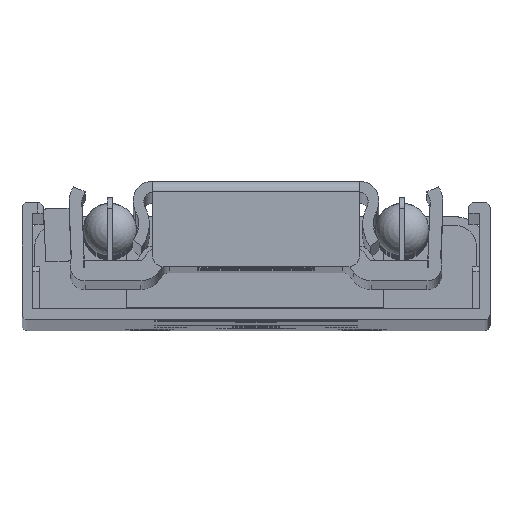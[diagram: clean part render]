
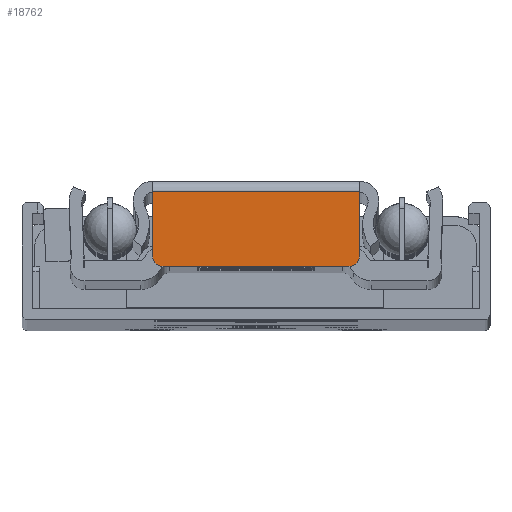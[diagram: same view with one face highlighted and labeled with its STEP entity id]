
A CAD part, top view. The second image highlights one B-rep face of the part: STEP entity #18762.
In plain terms, the highlighted planar face has unit normal (0, 0, 1).
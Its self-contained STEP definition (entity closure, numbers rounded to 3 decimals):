
#870=PLANE('',#20523);
#1786=FACE_OUTER_BOUND('',#2893,.T.);
#2893=EDGE_LOOP('',(#17171,#17172,#17173,#17174,#17175,#17176));
#4747=LINE('',#31562,#6621);
#4748=LINE('',#31565,#6622);
#4749=LINE('',#31569,#6623);
#4750=LINE('',#31572,#6624);
#6621=VECTOR('',#25746,10.);
#6622=VECTOR('',#25749,10.);
#6623=VECTOR('',#25752,10.);
#6624=VECTOR('',#25755,10.);
#7501=CIRCLE('',#20524,1.);
#7502=CIRCLE('',#20525,1.);
#9242=VERTEX_POINT('',#31555);
#9245=VERTEX_POINT('',#31560);
#9246=VERTEX_POINT('',#31564);
#9247=VERTEX_POINT('',#31566);
#9248=VERTEX_POINT('',#31568);
#9249=VERTEX_POINT('',#31570);
#11933=EDGE_CURVE('',#9245,#9242,#4747,.T.);
#11934=EDGE_CURVE('',#9245,#9246,#4748,.T.);
#11935=EDGE_CURVE('',#9247,#9246,#7501,.T.);
#11936=EDGE_CURVE('',#9247,#9248,#4749,.T.);
#11937=EDGE_CURVE('',#9249,#9248,#7502,.T.);
#11938=EDGE_CURVE('',#9242,#9249,#4750,.T.);
#17171=ORIENTED_EDGE('',*,*,#11933,.F.);
#17172=ORIENTED_EDGE('',*,*,#11934,.T.);
#17173=ORIENTED_EDGE('',*,*,#11935,.F.);
#17174=ORIENTED_EDGE('',*,*,#11936,.T.);
#17175=ORIENTED_EDGE('',*,*,#11937,.F.);
#17176=ORIENTED_EDGE('',*,*,#11938,.F.);
#18762=ADVANCED_FACE('',(#1786),#870,.T.);
#20523=AXIS2_PLACEMENT_3D('',#31563,#25747,#25748);
#20524=AXIS2_PLACEMENT_3D('',#31567,#25750,#25751);
#20525=AXIS2_PLACEMENT_3D('',#31571,#25753,#25754);
#25746=DIRECTION('',(-1.,0.,0.));
#25747=DIRECTION('center_axis',(0.,0.,1.));
#25748=DIRECTION('ref_axis',(1.,0.,0.));
#25749=DIRECTION('',(0.,1.,0.));
#25750=DIRECTION('center_axis',(0.,0.,-1.));
#25751=DIRECTION('ref_axis',(0.707,0.707,0.));
#25752=DIRECTION('',(-1.,0.,0.));
#25753=DIRECTION('center_axis',(0.,0.,-1.));
#25754=DIRECTION('ref_axis',(-0.707,0.707,0.));
#25755=DIRECTION('',(0.,1.,0.));
#31555=CARTESIAN_POINT('',(4.892,-4.95,599.));
#31560=CARTESIAN_POINT('',(24.354,-4.95,599.));
#31562=CARTESIAN_POINT('',(19.501,-4.95,599.));
#31563=CARTESIAN_POINT('Origin',(24.354,-5.95,599.));
#31564=CARTESIAN_POINT('',(24.354,1.05,599.));
#31565=CARTESIAN_POINT('',(24.354,-5.95,599.));
#31566=CARTESIAN_POINT('',(23.354,2.05,599.));
#31567=CARTESIAN_POINT('Origin',(23.354,1.05,599.));
#31568=CARTESIAN_POINT('',(5.892,2.05,599.));
#31569=CARTESIAN_POINT('',(24.354,2.05,599.));
#31570=CARTESIAN_POINT('',(4.892,1.05,599.));
#31571=CARTESIAN_POINT('Origin',(5.892,1.05,599.));
#31572=CARTESIAN_POINT('',(4.892,-5.95,599.));
